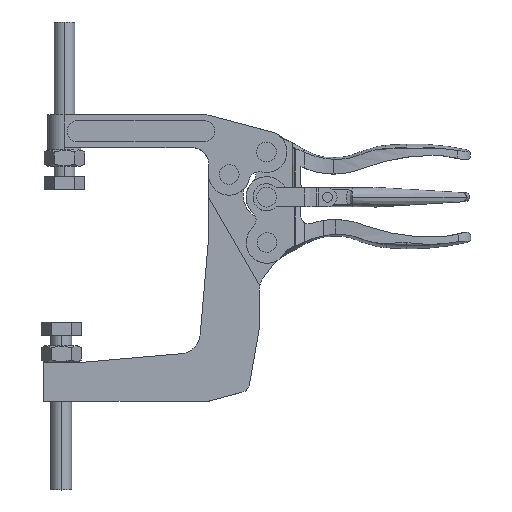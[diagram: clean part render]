
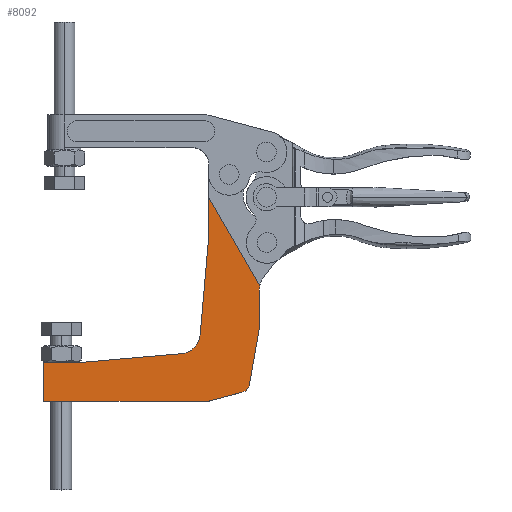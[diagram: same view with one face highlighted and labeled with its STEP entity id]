
A CAD part, top view. The second image highlights one B-rep face of the part: STEP entity #8092.
In plain terms, the highlighted planar face has unit normal (0, 0, 1).
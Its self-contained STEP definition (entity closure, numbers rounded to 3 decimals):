
#100 = DIRECTION ( 'NONE',  ( -0.996, -0.087, 0. ) ) ;
#376 = VECTOR ( 'NONE', #11760, 1000. ) ;
#739 = DIRECTION ( 'NONE',  ( -1., 0., 0. ) ) ;
#899 = EDGE_LOOP ( 'NONE', ( #10806, #912, #13617, #11513, #13059, #8986, #2203, #1315, #10363, #6546, #5286, #6713, #7121, #4463 ) ) ;
#911 = LINE ( 'NONE', #5083, #7560 ) ;
#912 = ORIENTED_EDGE ( 'NONE', *, *, #4505, .F. ) ;
#987 = VERTEX_POINT ( 'NONE', #10086 ) ;
#1239 = CARTESIAN_POINT ( 'NONE',  ( -11.687, -73.321, 0. ) ) ;
#1254 = LINE ( 'NONE', #8741, #3422 ) ;
#1266 = CARTESIAN_POINT ( 'NONE',  ( -3.348, -42.651, 0. ) ) ;
#1315 = ORIENTED_EDGE ( 'NONE', *, *, #13521, .T. ) ;
#1665 = CARTESIAN_POINT ( 'NONE',  ( -12.981, -68.491, 0. ) ) ;
#1684 = LINE ( 'NONE', #6069, #9845 ) ;
#1851 = DIRECTION ( 'NONE',  ( 0.5, -0.866, 0. ) ) ;
#1977 = DIRECTION ( 'NONE',  ( 1., 0., 0. ) ) ;
#2203 = ORIENTED_EDGE ( 'NONE', *, *, #9031, .T. ) ;
#2242 = AXIS2_PLACEMENT_3D ( 'NONE', #1665, #9119, #2733 ) ;
#2491 = CARTESIAN_POINT ( 'NONE',  ( -28.506, -77.651, 0. ) ) ;
#2566 = CIRCLE ( 'NONE', #4454, 10. ) ;
#2704 = EDGE_CURVE ( 'NONE', #11208, #13476, #1254, .T. ) ;
#2721 = AXIS2_PLACEMENT_3D ( 'NONE', #4712, #12185, #5788 ) ;
#2733 = DIRECTION ( 'NONE',  ( 1., 0., 0. ) ) ;
#2858 = FACE_OUTER_BOUND ( 'NONE', #899, .T. ) ;
#2903 = CARTESIAN_POINT ( 'NONE',  ( -3.348, -42.651, 0. ) ) ;
#2929 = DIRECTION ( 'NONE',  ( 0., 0., 1. ) ) ;
#2999 = CIRCLE ( 'NONE', #2721, 10. ) ;
#3181 = EDGE_CURVE ( 'NONE', #9340, #3851, #13601, .T. ) ;
#3422 = VECTOR ( 'NONE', #12991, 1000. ) ;
#3624 = VECTOR ( 'NONE', #11118, 1000. ) ;
#3793 = CARTESIAN_POINT ( 'NONE',  ( -107.848, -77.651, 0. ) ) ;
#3851 = VERTEX_POINT ( 'NONE', #10204 ) ;
#3940 = CARTESIAN_POINT ( 'NONE',  ( -27.848, 21.349, 0. ) ) ;
#4003 = LINE ( 'NONE', #12983, #9328 ) ;
#4026 = DIRECTION ( 'NONE',  ( 0.174, 0.985, 0. ) ) ;
#4031 = VECTOR ( 'NONE', #9779, 1000. ) ;
#4392 = EDGE_CURVE ( 'NONE', #4827, #13162, #2566, .T. ) ;
#4454 = AXIS2_PLACEMENT_3D ( 'NONE', #4739, #12207, #5810 ) ;
#4463 = ORIENTED_EDGE ( 'NONE', *, *, #8351, .T. ) ;
#4505 = EDGE_CURVE ( 'NONE', #9676, #10379, #911, .T. ) ;
#4712 = CARTESIAN_POINT ( 'NONE',  ( 6.652, -23.724, 0. ) ) ;
#4739 = CARTESIAN_POINT ( 'NONE',  ( -41.927, -44.572, 0. ) ) ;
#4768 = CARTESIAN_POINT ( 'NONE',  ( -27.848, 1.609, 0. ) ) ;
#4827 = VERTEX_POINT ( 'NONE', #8779 ) ;
#5060 = EDGE_CURVE ( 'NONE', #13476, #9801, #7733, .T. ) ;
#5083 = CARTESIAN_POINT ( 'NONE',  ( -27.848, 21.349, 0. ) ) ;
#5286 = ORIENTED_EDGE ( 'NONE', *, *, #6782, .T. ) ;
#5420 = EDGE_CURVE ( 'NONE', #11789, #4827, #13595, .T. ) ;
#5574 = CARTESIAN_POINT ( 'NONE',  ( -8.057, -69.359, 0. ) ) ;
#5788 = DIRECTION ( 'NONE',  ( 1., 0., 0. ) ) ;
#5810 = DIRECTION ( 'NONE',  ( 1., 0., 0. ) ) ;
#6020 = EDGE_CURVE ( 'NONE', #13162, #8199, #8891, .T. ) ;
#6069 = CARTESIAN_POINT ( 'NONE',  ( -88.108, -58.651, 0. ) ) ;
#6086 = VECTOR ( 'NONE', #100, 1000. ) ;
#6288 = CARTESIAN_POINT ( 'NONE',  ( -27.212, -77.481, 0. ) ) ;
#6476 = CARTESIAN_POINT ( 'NONE',  ( -88.108, -58.651, 0. ) ) ;
#6546 = ORIENTED_EDGE ( 'NONE', *, *, #5060, .T. ) ;
#6678 = CARTESIAN_POINT ( 'NONE',  ( -107.848, -58.651, 0. ) ) ;
#6713 = ORIENTED_EDGE ( 'NONE', *, *, #10556, .T. ) ;
#6782 = EDGE_CURVE ( 'NONE', #9801, #9261, #7866, .T. ) ;
#7121 = ORIENTED_EDGE ( 'NONE', *, *, #3181, .T. ) ;
#7337 = CARTESIAN_POINT ( 'NONE',  ( -27.848, 1.609, 0. ) ) ;
#7560 = VECTOR ( 'NONE', #1851, 1000. ) ;
#7733 = CIRCLE ( 'NONE', #9642, 5. ) ;
#7866 = LINE ( 'NONE', #12830, #376 ) ;
#7893 = CARTESIAN_POINT ( 'NONE',  ( -107.848, -58.651, 0. ) ) ;
#7919 = AXIS2_PLACEMENT_3D ( 'NONE', #12618, #8349, #1977 ) ;
#7976 = DIRECTION ( 'NONE',  ( -0.087, -0.996, 0. ) ) ;
#8092 = ADVANCED_FACE ( 'NONE', ( #2858 ), #9333, .T. ) ;
#8199 = VERTEX_POINT ( 'NONE', #9612 ) ;
#8349 = DIRECTION ( 'NONE',  ( 0., 0., 1. ) ) ;
#8351 = EDGE_CURVE ( 'NONE', #3851, #987, #9682, .T. ) ;
#8377 = CARTESIAN_POINT ( 'NONE',  ( -41.055, -54.534, 0. ) ) ;
#8741 = CARTESIAN_POINT ( 'NONE',  ( -28.506, -77.651, 0. ) ) ;
#8779 = CARTESIAN_POINT ( 'NONE',  ( -31.965, -45.444, 0. ) ) ;
#8891 = LINE ( 'NONE', #6476, #6086 ) ;
#8986 = ORIENTED_EDGE ( 'NONE', *, *, #6020, .T. ) ;
#9031 = EDGE_CURVE ( 'NONE', #8199, #11088, #1684, .T. ) ;
#9119 = DIRECTION ( 'NONE',  ( 0., 0., 1. ) ) ;
#9261 = VERTEX_POINT ( 'NONE', #1239 ) ;
#9302 = CARTESIAN_POINT ( 'NONE',  ( -28.506, -72.651, 0. ) ) ;
#9328 = VECTOR ( 'NONE', #11916, 1000. ) ;
#9333 = PLANE ( 'NONE',  #7919 ) ;
#9340 = VERTEX_POINT ( 'NONE', #5574 ) ;
#9612 = CARTESIAN_POINT ( 'NONE',  ( -88.108, -58.651, 0. ) ) ;
#9642 = AXIS2_PLACEMENT_3D ( 'NONE', #9302, #2929, #10377 ) ;
#9676 = VERTEX_POINT ( 'NONE', #3940 ) ;
#9682 = LINE ( 'NONE', #1266, #4031 ) ;
#9779 = DIRECTION ( 'NONE',  ( 0., 1., 0. ) ) ;
#9801 = VERTEX_POINT ( 'NONE', #6288 ) ;
#9845 = VECTOR ( 'NONE', #739, 1000. ) ;
#10086 = CARTESIAN_POINT ( 'NONE',  ( -3.348, -23.724, 0. ) ) ;
#10204 = CARTESIAN_POINT ( 'NONE',  ( -3.348, -42.651, 0. ) ) ;
#10363 = ORIENTED_EDGE ( 'NONE', *, *, #2704, .T. ) ;
#10377 = DIRECTION ( 'NONE',  ( 1., 0., 0. ) ) ;
#10379 = VERTEX_POINT ( 'NONE', #13139 ) ;
#10556 = EDGE_CURVE ( 'NONE', #9261, #9340, #13191, .T. ) ;
#10746 = VECTOR ( 'NONE', #7976, 1000. ) ;
#10753 = VECTOR ( 'NONE', #4026, 1000. ) ;
#10806 = ORIENTED_EDGE ( 'NONE', *, *, #12098, .T. ) ;
#11088 = VERTEX_POINT ( 'NONE', #6678 ) ;
#11118 = DIRECTION ( 'NONE',  ( 0., -1., 0. ) ) ;
#11208 = VERTEX_POINT ( 'NONE', #3793 ) ;
#11513 = ORIENTED_EDGE ( 'NONE', *, *, #5420, .T. ) ;
#11760 = DIRECTION ( 'NONE',  ( 0.966, 0.259, 0. ) ) ;
#11789 = VERTEX_POINT ( 'NONE', #7337 ) ;
#11916 = DIRECTION ( 'NONE',  ( 0., -1., 0. ) ) ;
#12012 = EDGE_CURVE ( 'NONE', #9676, #11789, #4003, .T. ) ;
#12098 = EDGE_CURVE ( 'NONE', #987, #10379, #2999, .T. ) ;
#12145 = LINE ( 'NONE', #7893, #3624 ) ;
#12185 = DIRECTION ( 'NONE',  ( 0., 0., -1. ) ) ;
#12207 = DIRECTION ( 'NONE',  ( 0., 0., -1. ) ) ;
#12618 = CARTESIAN_POINT ( 'NONE',  ( -12.981, -68.491, 0. ) ) ;
#12830 = CARTESIAN_POINT ( 'NONE',  ( -11.687, -73.321, 0. ) ) ;
#12983 = CARTESIAN_POINT ( 'NONE',  ( -27.848, 1.609, 0. ) ) ;
#12991 = DIRECTION ( 'NONE',  ( 1., 0., 0. ) ) ;
#13059 = ORIENTED_EDGE ( 'NONE', *, *, #4392, .T. ) ;
#13139 = CARTESIAN_POINT ( 'NONE',  ( -3.101, -21.514, 0. ) ) ;
#13162 = VERTEX_POINT ( 'NONE', #8377 ) ;
#13191 = CIRCLE ( 'NONE', #2242, 5. ) ;
#13476 = VERTEX_POINT ( 'NONE', #2491 ) ;
#13521 = EDGE_CURVE ( 'NONE', #11088, #11208, #12145, .T. ) ;
#13595 = LINE ( 'NONE', #4768, #10746 ) ;
#13601 = LINE ( 'NONE', #2903, #10753 ) ;
#13617 = ORIENTED_EDGE ( 'NONE', *, *, #12012, .T. ) ;
